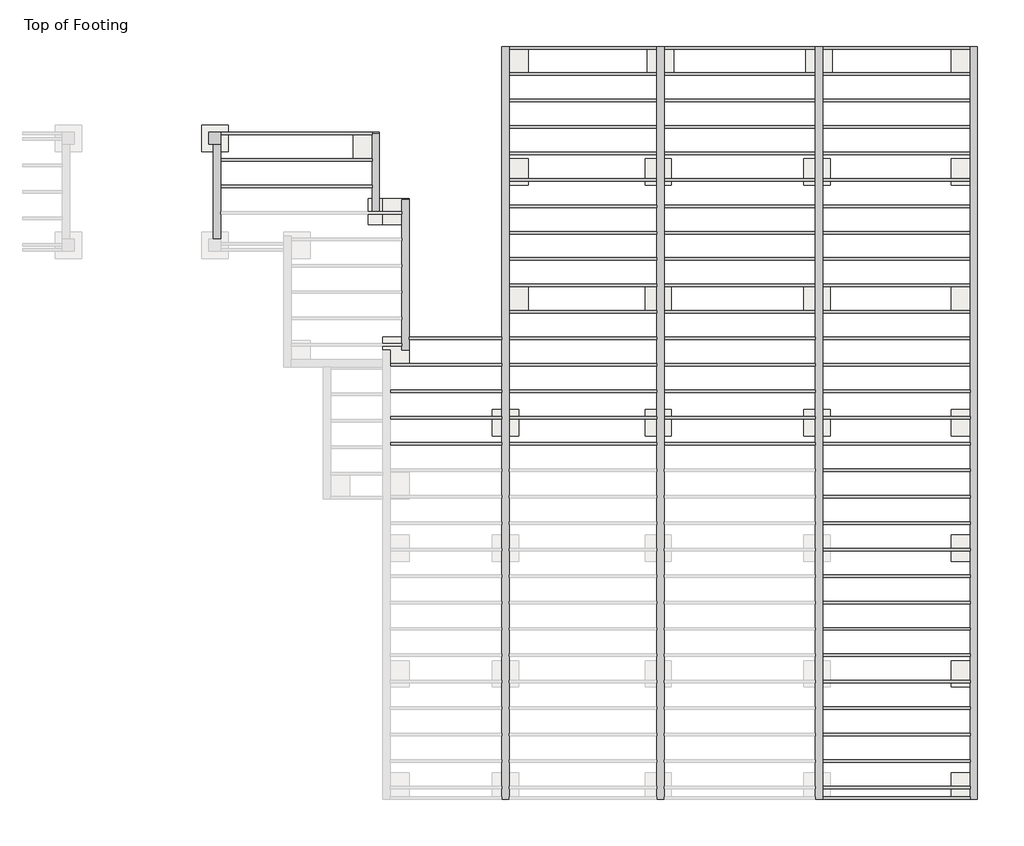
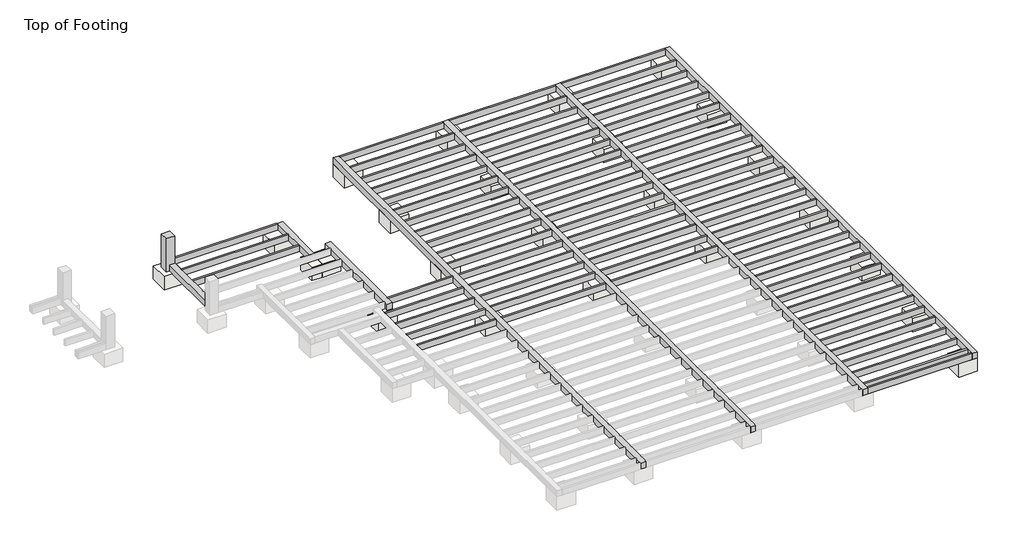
# One storey, part 3 of 3: 77 beams, 24 slabs, 1 column.
"""IFC4 building model written with IfcOpenShell, lengths in millimetres."""

from ifc_helpers import new_model, si_unit, frame, origin, place, context, project, spatial, polyline, outline, extrude, transform, mapped, element, save
from components import dimension_lumber_1_2x_x6_194c576a, dimension_lumber_1_2x_x6_6abd7c7f, dimension_lumber_1_2x_x6_848c9500, dimension_lumber_1_2x_x6_b2661593, dimension_lumber_1_2x_x6_9289383a, dimension_lumber_3_2x_x6_f6200c4b, dimension_lumber_3_2x_x6_4cbae719, dimension_lumber_3_2x_x6_941dd0b6, dimension_lumber_3_2x_x6_e2801ec1, dimension_lumber_column_8x8_2579570d, footing_rectangular_16x16x14_90ff128c

model = new_model("IFC4")

# Units and contexts
model_context = context("Model", 3, world=origin())
ifc_project = project(units=[si_unit("LENGTHUNIT", "METRE", prefix="MILLI")], contexts=[model_context])

# Site, building, storey
site = spatial("IfcSite", under=ifc_project)
building = spatial("IfcBuilding", under=site)
storey = spatial("IfcBuildingStorey", under=building, Name="Top of Footing", Elevation=-158.75)

# Beams
placement = place(None, origin())
dimension_lumber_1_2x_x6_shape = dimension_lumber_1_2x_x6_194c576a(model_context)
element("IfcBeam", 1, ObjectType="Dimension Lumber (1) 2x : x6", at=placement, inside=storey, context=model_context, shape_type="MappedRepresentation", body=[
    mapped(dimension_lumber_1_2x_x6_shape, transform((13753.4788706, -1722.6939898, -88.9), x_axis=(1.0, 0.0, 0.0), y_axis=(0.0, 1.0, 0.0), z_axis=(0.0, 0.0, 1.0))),
])
element("IfcBeam", 2, ObjectType="Dimension Lumber (1) 2x : x6", at=placement, inside=storey, context=model_context, shape_type="MappedRepresentation", body=[
    mapped(dimension_lumber_1_2x_x6_shape, transform((13753.4788706, -2129.0939898, -88.9), x_axis=(1.0, 0.0, 0.0), y_axis=(0.0, 1.0, 0.0), z_axis=(0.0, 0.0, 1.0))),
])
element("IfcBeam", 3, ObjectType="Dimension Lumber (1) 2x : x6", at=placement, inside=storey, context=model_context, shape_type="MappedRepresentation", body=[
    mapped(dimension_lumber_1_2x_x6_shape, transform((13753.4788706, -2535.4939898, -88.9), x_axis=(1.0, 0.0, 0.0), y_axis=(0.0, 1.0, 0.0), z_axis=(0.0, 0.0, 1.0))),
])
element("IfcBeam", 4, ObjectType="Dimension Lumber (1) 2x : x6", at=placement, inside=storey, context=model_context, shape_type="MappedRepresentation", body=[
    mapped(dimension_lumber_1_2x_x6_shape, transform((13753.4788706, -2941.8939898, -88.9), x_axis=(1.0, 0.0, 0.0), y_axis=(0.0, 1.0, 0.0), z_axis=(0.0, 0.0, 1.0))),
])
element("IfcBeam", 5, ObjectType="Dimension Lumber (1) 2x : x6", at=placement, inside=storey, context=model_context, shape_type="MappedRepresentation", body=[
    mapped(dimension_lumber_1_2x_x6_shape, transform((13753.4788706, -3348.2939898, -88.9), x_axis=(1.0, 0.0, 0.0), y_axis=(0.0, 1.0, 0.0), z_axis=(0.0, 0.0, 1.0))),
])
element("IfcBeam", 6, ObjectType="Dimension Lumber (1) 2x : x6", at=placement, inside=storey, context=model_context, shape_type="MappedRepresentation", body=[
    mapped(dimension_lumber_1_2x_x6_shape, transform((13753.4788706, -3754.6939898, -88.9), x_axis=(1.0, 0.0, 0.0), y_axis=(0.0, 1.0, 0.0), z_axis=(0.0, 0.0, 1.0))),
])
element("IfcBeam", 7, ObjectType="Dimension Lumber (1) 2x : x6", at=placement, inside=storey, context=model_context, shape_type="MappedRepresentation", body=[
    mapped(dimension_lumber_1_2x_x6_shape, transform((13753.4788706, -4161.0939898, -88.9), x_axis=(1.0, 0.0, 0.0), y_axis=(0.0, 1.0, 0.0), z_axis=(0.0, 0.0, 1.0))),
])
element("IfcBeam", 8, ObjectType="Dimension Lumber (1) 2x : x6", at=placement, inside=storey, context=model_context, shape_type="MappedRepresentation", body=[
    mapped(dimension_lumber_1_2x_x6_shape, transform((13753.4788706, -4567.4939898, -88.9), x_axis=(1.0, 0.0, 0.0), y_axis=(0.0, 1.0, 0.0), z_axis=(0.0, 0.0, 1.0))),
])
element("IfcBeam", 9, ObjectType="Dimension Lumber (1) 2x : x6", at=placement, inside=storey, context=model_context, shape_type="MappedRepresentation", body=[
    mapped(dimension_lumber_1_2x_x6_shape, transform((13753.4788706, -4973.8939898, -88.9), x_axis=(1.0, 0.0, 0.0), y_axis=(0.0, 1.0, 0.0), z_axis=(0.0, 0.0, 1.0))),
])
element("IfcBeam", 10, ObjectType="Dimension Lumber (1) 2x : x6", at=placement, inside=storey, context=model_context, shape_type="MappedRepresentation", body=[
    mapped(dimension_lumber_1_2x_x6_shape, transform((13753.4788706, -5380.2939898, -88.9), x_axis=(1.0, 0.0, 0.0), y_axis=(0.0, 1.0, 0.0), z_axis=(0.0, 0.0, 1.0))),
])
element("IfcBeam", 11, ObjectType="Dimension Lumber (1) 2x : x6", at=placement, inside=storey, context=model_context, shape_type="MappedRepresentation", body=[
    mapped(dimension_lumber_1_2x_x6_shape, transform((13753.4788706, -5786.6939898, -88.9), x_axis=(1.0, 0.0, 0.0), y_axis=(0.0, 1.0, 0.0), z_axis=(0.0, 0.0, 1.0))),
])
element("IfcBeam", 12, ObjectType="Dimension Lumber (1) 2x : x6", at=placement, inside=storey, context=model_context, shape_type="MappedRepresentation", body=[
    mapped(dimension_lumber_1_2x_x6_shape, transform((13753.4788706, -6193.0939898, -88.9), x_axis=(1.0, 0.0, 0.0), y_axis=(0.0, 1.0, 0.0), z_axis=(0.0, 0.0, 1.0))),
])
element("IfcBeam", 13, ObjectType="Dimension Lumber (1) 2x : x6", at=placement, inside=storey, context=model_context, shape_type="MappedRepresentation", body=[
    mapped(dimension_lumber_1_2x_x6_shape, transform((13753.4788706, -6599.4939898, -88.9), x_axis=(1.0, 0.0, 0.0), y_axis=(0.0, 1.0, 0.0), z_axis=(0.0, 0.0, 1.0))),
])
element("IfcBeam", 14, ObjectType="Dimension Lumber (1) 2x : x6", at=placement, inside=storey, context=model_context, shape_type="MappedRepresentation", body=[
    mapped(dimension_lumber_1_2x_x6_shape, transform((13753.4788706, -7005.8939898, -88.9), x_axis=(1.0, 0.0, 0.0), y_axis=(0.0, 1.0, 0.0), z_axis=(0.0, 0.0, 1.0))),
])
element("IfcBeam", 15, ObjectType="Dimension Lumber (1) 2x : x6", at=placement, inside=storey, context=model_context, shape_type="MappedRepresentation", body=[
    mapped(dimension_lumber_1_2x_x6_shape, transform((13753.4788706, -7412.2939898, -88.9), x_axis=(1.0, 0.0, 0.0), y_axis=(0.0, 1.0, 0.0), z_axis=(0.0, 0.0, 1.0))),
])
element("IfcBeam", 16, ObjectType="Dimension Lumber (1) 2x : x6", at=placement, inside=storey, context=model_context, shape_type="MappedRepresentation", body=[
    mapped(dimension_lumber_1_2x_x6_shape, transform((13753.4788706, -7818.6939898, -88.9), x_axis=(1.0, 0.0, 0.0), y_axis=(0.0, 1.0, 0.0), z_axis=(0.0, 0.0, 1.0))),
])
element("IfcBeam", 17, ObjectType="Dimension Lumber (1) 2x : x6", at=placement, inside=storey, context=model_context, shape_type="MappedRepresentation", body=[
    mapped(dimension_lumber_1_2x_x6_shape, transform((6939.9288706, -3449.8939898, -88.9), x_axis=(1.0, 0.0, 0.0), y_axis=(0.0, 1.0, 0.0), z_axis=(0.0, 0.0, 1.0))),
])
element("IfcBeam", 18, ObjectType="Dimension Lumber (1) 2x : x6", at=placement, inside=storey, context=model_context, shape_type="MappedRepresentation", body=[
    mapped(dimension_lumber_1_2x_x6_shape, transform((6939.9288706, -3856.2939898, -88.9), x_axis=(1.0, 0.0, 0.0), y_axis=(0.0, 1.0, 0.0), z_axis=(0.0, 0.0, 1.0))),
])
dimension_lumber_1_2x_x6_2_shape = dimension_lumber_1_2x_x6_6abd7c7f(model_context)
element("IfcBeam", 19, ObjectType="Dimension Lumber (1) 2x : x6", at=placement, inside=storey, context=model_context, shape_type="MappedRepresentation", body=[
    mapped(dimension_lumber_1_2x_x6_2_shape, transform((9384.6788706, -6193.0939898, -88.9), x_axis=(-1.0, 0.0, 0.0), y_axis=(0.0, -1.0, 0.0), z_axis=(0.0, 0.0, 1.0))),
])
dimension_lumber_1_2x_x6_3_shape = dimension_lumber_1_2x_x6_848c9500(model_context)
element("IfcBeam", 20, ObjectType="Dimension Lumber (1) 2x : x6", at=placement, inside=storey, context=model_context, shape_type="MappedRepresentation", body=[
    mapped(dimension_lumber_1_2x_x6_3_shape, transform((9238.6288706, -7818.6939898, -88.9), x_axis=(-1.0, 0.0, 0.0), y_axis=(0.0, -1.0, 0.0), z_axis=(0.0, 0.0, 1.0))),
])
element("IfcBeam", 21, ObjectType="Dimension Lumber (1) 2x : x6", at=placement, inside=storey, context=model_context, shape_type="MappedRepresentation", body=[
    mapped(dimension_lumber_1_2x_x6_3_shape, transform((9238.6288706, -7412.2939898, -88.9), x_axis=(-1.0, 0.0, 0.0), y_axis=(0.0, -1.0, 0.0), z_axis=(0.0, 0.0, 1.0))),
])
element("IfcBeam", 22, ObjectType="Dimension Lumber (1) 2x : x6", at=placement, inside=storey, context=model_context, shape_type="MappedRepresentation", body=[
    mapped(dimension_lumber_1_2x_x6_3_shape, transform((9238.6288706, -7005.8939898, -88.9), x_axis=(-1.0, 0.0, 0.0), y_axis=(0.0, -1.0, 0.0), z_axis=(0.0, 0.0, 1.0))),
])
element("IfcBeam", 23, ObjectType="Dimension Lumber (1) 2x : x6", at=placement, inside=storey, context=model_context, shape_type="MappedRepresentation", body=[
    mapped(dimension_lumber_1_2x_x6_3_shape, transform((9238.6288706, -6599.4939898, -88.9), x_axis=(-1.0, 0.0, 0.0), y_axis=(0.0, -1.0, 0.0), z_axis=(0.0, 0.0, 1.0))),
])
dimension_lumber_1_2x_x6_4_shape = dimension_lumber_1_2x_x6_b2661593(model_context)
element("IfcBeam", 24, ObjectType="Dimension Lumber (1) 2x : x6", at=placement, inside=storey, context=model_context, shape_type="MappedRepresentation", body=[
    mapped(dimension_lumber_1_2x_x6_4_shape, transform((6968.5038706, -3043.4939898, -88.9), x_axis=(1.0, 0.0, 0.0), y_axis=(0.0, 1.0, 0.0), z_axis=(0.0, 0.0, 1.0))),
])
dimension_lumber_1_2x_x6_5_shape = dimension_lumber_1_2x_x6_9289383a(model_context)
element("IfcBeam", 25, ObjectType="Dimension Lumber (1) 2x : x6", at=placement, inside=storey, context=model_context, shape_type="MappedRepresentation", body=[
    mapped(dimension_lumber_1_2x_x6_5_shape, transform((11343.6538706, -1722.6939898, -88.9), x_axis=(1.0, 0.0, 0.0), y_axis=(0.0, 1.0, 0.0), z_axis=(0.0, 0.0, 1.0))),
])
element("IfcBeam", 26, ObjectType="Dimension Lumber (1) 2x : x6", at=placement, inside=storey, context=model_context, shape_type="MappedRepresentation", body=[
    mapped(dimension_lumber_1_2x_x6_5_shape, transform((11343.6538706, -2129.0939898, -88.9), x_axis=(1.0, 0.0, 0.0), y_axis=(0.0, 1.0, 0.0), z_axis=(0.0, 0.0, 1.0))),
])
element("IfcBeam", 27, ObjectType="Dimension Lumber (1) 2x : x6", at=placement, inside=storey, context=model_context, shape_type="MappedRepresentation", body=[
    mapped(dimension_lumber_1_2x_x6_5_shape, transform((11343.6538706, -2535.4939898, -88.9), x_axis=(1.0, 0.0, 0.0), y_axis=(0.0, 1.0, 0.0), z_axis=(0.0, 0.0, 1.0))),
])
element("IfcBeam", 28, ObjectType="Dimension Lumber (1) 2x : x6", at=placement, inside=storey, context=model_context, shape_type="MappedRepresentation", body=[
    mapped(dimension_lumber_1_2x_x6_5_shape, transform((11343.6538706, -2941.8939898, -88.9), x_axis=(1.0, 0.0, 0.0), y_axis=(0.0, 1.0, 0.0), z_axis=(0.0, 0.0, 1.0))),
])
element("IfcBeam", 29, ObjectType="Dimension Lumber (1) 2x : x6", at=placement, inside=storey, context=model_context, shape_type="MappedRepresentation", body=[
    mapped(dimension_lumber_1_2x_x6_5_shape, transform((11343.6538706, -3348.2939898, -88.9), x_axis=(1.0, 0.0, 0.0), y_axis=(0.0, 1.0, 0.0), z_axis=(0.0, 0.0, 1.0))),
])
element("IfcBeam", 30, ObjectType="Dimension Lumber (1) 2x : x6", at=placement, inside=storey, context=model_context, shape_type="MappedRepresentation", body=[
    mapped(dimension_lumber_1_2x_x6_5_shape, transform((11343.6538706, -3754.6939898, -88.9), x_axis=(1.0, 0.0, 0.0), y_axis=(0.0, 1.0, 0.0), z_axis=(0.0, 0.0, 1.0))),
])
element("IfcBeam", 31, ObjectType="Dimension Lumber (1) 2x : x6", at=placement, inside=storey, context=model_context, shape_type="MappedRepresentation", body=[
    mapped(dimension_lumber_1_2x_x6_5_shape, transform((11343.6538706, -4161.0939898, -88.9), x_axis=(1.0, 0.0, 0.0), y_axis=(0.0, 1.0, 0.0), z_axis=(0.0, 0.0, 1.0))),
])
element("IfcBeam", 32, ObjectType="Dimension Lumber (1) 2x : x6", at=placement, inside=storey, context=model_context, shape_type="MappedRepresentation", body=[
    mapped(dimension_lumber_1_2x_x6_5_shape, transform((11343.6538706, -4567.4939898, -88.9), x_axis=(1.0, 0.0, 0.0), y_axis=(0.0, 1.0, 0.0), z_axis=(0.0, 0.0, 1.0))),
])
element("IfcBeam", 33, ObjectType="Dimension Lumber (1) 2x : x6", at=placement, inside=storey, context=model_context, shape_type="MappedRepresentation", body=[
    mapped(dimension_lumber_1_2x_x6_5_shape, transform((11343.6538706, -4973.8939898, -88.9), x_axis=(1.0, 0.0, 0.0), y_axis=(0.0, 1.0, 0.0), z_axis=(0.0, 0.0, 1.0))),
])
element("IfcBeam", 34, ObjectType="Dimension Lumber (1) 2x : x6", at=placement, inside=storey, context=model_context, shape_type="MappedRepresentation", body=[
    mapped(dimension_lumber_1_2x_x6_5_shape, transform((11343.6538706, -5380.2939898, -88.9), x_axis=(1.0, 0.0, 0.0), y_axis=(0.0, 1.0, 0.0), z_axis=(0.0, 0.0, 1.0))),
])
element("IfcBeam", 35, ObjectType="Dimension Lumber (1) 2x : x6", at=placement, inside=storey, context=model_context, shape_type="MappedRepresentation", body=[
    mapped(dimension_lumber_1_2x_x6_5_shape, transform((11343.6538706, -5786.6939898, -88.9), x_axis=(1.0, 0.0, 0.0), y_axis=(0.0, 1.0, 0.0), z_axis=(0.0, 0.0, 1.0))),
])
element("IfcBeam", 36, ObjectType="Dimension Lumber (1) 2x : x6", at=placement, inside=storey, context=model_context, shape_type="MappedRepresentation", body=[
    mapped(dimension_lumber_1_2x_x6_5_shape, transform((11343.6538706, -6193.0939898, -88.9), x_axis=(1.0, 0.0, 0.0), y_axis=(0.0, 1.0, 0.0), z_axis=(0.0, 0.0, 1.0))),
])
element("IfcBeam", 37, ObjectType="Dimension Lumber (1) 2x : x6", at=placement, inside=storey, context=model_context, shape_type="MappedRepresentation", body=[
    mapped(dimension_lumber_1_2x_x6_5_shape, transform((11343.6538706, -6599.4939898, -88.9), x_axis=(1.0, 0.0, 0.0), y_axis=(0.0, 1.0, 0.0), z_axis=(0.0, 0.0, 1.0))),
])
element("IfcBeam", 38, ObjectType="Dimension Lumber (1) 2x : x6", at=placement, inside=storey, context=model_context, shape_type="MappedRepresentation", body=[
    mapped(dimension_lumber_1_2x_x6_5_shape, transform((11343.6538706, -7005.8939898, -88.9), x_axis=(1.0, 0.0, 0.0), y_axis=(0.0, 1.0, 0.0), z_axis=(0.0, 0.0, 1.0))),
])
element("IfcBeam", 39, ObjectType="Dimension Lumber (1) 2x : x6", at=placement, inside=storey, context=model_context, shape_type="MappedRepresentation", body=[
    mapped(dimension_lumber_1_2x_x6_5_shape, transform((11343.6538706, -7412.2939898, -88.9), x_axis=(1.0, 0.0, 0.0), y_axis=(0.0, 1.0, 0.0), z_axis=(0.0, 0.0, 1.0))),
])
element("IfcBeam", 40, ObjectType="Dimension Lumber (1) 2x : x6", at=placement, inside=storey, context=model_context, shape_type="MappedRepresentation", body=[
    mapped(dimension_lumber_1_2x_x6_5_shape, transform((11343.6538706, -7818.6939898, -88.9), x_axis=(1.0, 0.0, 0.0), y_axis=(0.0, 1.0, 0.0), z_axis=(0.0, 0.0, 1.0))),
])
element("IfcBeam", 41, ObjectType="Dimension Lumber (1) 2x : x6", at=placement, inside=storey, context=model_context, shape_type="MappedRepresentation", body=[
    mapped(dimension_lumber_1_2x_x6_5_shape, transform((16163.3038706, -1722.6939898, -88.9), x_axis=(1.0, 0.0, 0.0), y_axis=(0.0, 1.0, 0.0), z_axis=(0.0, 0.0, 1.0))),
])
element("IfcBeam", 42, ObjectType="Dimension Lumber (1) 2x : x6", at=placement, inside=storey, context=model_context, shape_type="MappedRepresentation", body=[
    mapped(dimension_lumber_1_2x_x6_5_shape, transform((16163.3038706, -2129.0939898, -88.9), x_axis=(1.0, 0.0, 0.0), y_axis=(0.0, 1.0, 0.0), z_axis=(0.0, 0.0, 1.0))),
])
element("IfcBeam", 43, ObjectType="Dimension Lumber (1) 2x : x6", at=placement, inside=storey, context=model_context, shape_type="MappedRepresentation", body=[
    mapped(dimension_lumber_1_2x_x6_5_shape, transform((16163.3038706, -2535.4939898, -88.9), x_axis=(1.0, 0.0, 0.0), y_axis=(0.0, 1.0, 0.0), z_axis=(0.0, 0.0, 1.0))),
])
element("IfcBeam", 44, ObjectType="Dimension Lumber (1) 2x : x6", at=placement, inside=storey, context=model_context, shape_type="MappedRepresentation", body=[
    mapped(dimension_lumber_1_2x_x6_5_shape, transform((16163.3038706, -2941.8939898, -88.9), x_axis=(1.0, 0.0, 0.0), y_axis=(0.0, 1.0, 0.0), z_axis=(0.0, 0.0, 1.0))),
])
element("IfcBeam", 45, ObjectType="Dimension Lumber (1) 2x : x6", at=placement, inside=storey, context=model_context, shape_type="MappedRepresentation", body=[
    mapped(dimension_lumber_1_2x_x6_5_shape, transform((16163.3038706, -3348.2939898, -88.9), x_axis=(1.0, 0.0, 0.0), y_axis=(0.0, 1.0, 0.0), z_axis=(0.0, 0.0, 1.0))),
])
element("IfcBeam", 46, ObjectType="Dimension Lumber (1) 2x : x6", at=placement, inside=storey, context=model_context, shape_type="MappedRepresentation", body=[
    mapped(dimension_lumber_1_2x_x6_5_shape, transform((16163.3038706, -3754.6939898, -88.9), x_axis=(1.0, 0.0, 0.0), y_axis=(0.0, 1.0, 0.0), z_axis=(0.0, 0.0, 1.0))),
])
element("IfcBeam", 47, ObjectType="Dimension Lumber (1) 2x : x6", at=placement, inside=storey, context=model_context, shape_type="MappedRepresentation", body=[
    mapped(dimension_lumber_1_2x_x6_5_shape, transform((16163.3038706, -4161.0939898, -88.9), x_axis=(1.0, 0.0, 0.0), y_axis=(0.0, 1.0, 0.0), z_axis=(0.0, 0.0, 1.0))),
])
element("IfcBeam", 48, ObjectType="Dimension Lumber (1) 2x : x6", at=placement, inside=storey, context=model_context, shape_type="MappedRepresentation", body=[
    mapped(dimension_lumber_1_2x_x6_5_shape, transform((16163.3038706, -4567.4939898, -88.9), x_axis=(1.0, 0.0, 0.0), y_axis=(0.0, 1.0, 0.0), z_axis=(0.0, 0.0, 1.0))),
])
element("IfcBeam", 49, ObjectType="Dimension Lumber (1) 2x : x6", at=placement, inside=storey, context=model_context, shape_type="MappedRepresentation", body=[
    mapped(dimension_lumber_1_2x_x6_5_shape, transform((16163.3038706, -4973.8939898, -88.9), x_axis=(1.0, 0.0, 0.0), y_axis=(0.0, 1.0, 0.0), z_axis=(0.0, 0.0, 1.0))),
])
element("IfcBeam", 50, ObjectType="Dimension Lumber (1) 2x : x6", at=placement, inside=storey, context=model_context, shape_type="MappedRepresentation", body=[
    mapped(dimension_lumber_1_2x_x6_5_shape, transform((16163.3038706, -5380.2939898, -88.9), x_axis=(1.0, 0.0, 0.0), y_axis=(0.0, 1.0, 0.0), z_axis=(0.0, 0.0, 1.0))),
])
element("IfcBeam", 51, ObjectType="Dimension Lumber (1) 2x : x6", at=placement, inside=storey, context=model_context, shape_type="MappedRepresentation", body=[
    mapped(dimension_lumber_1_2x_x6_5_shape, transform((16163.3038706, -5786.6939898, -88.9), x_axis=(1.0, 0.0, 0.0), y_axis=(0.0, 1.0, 0.0), z_axis=(0.0, 0.0, 1.0))),
])
element("IfcBeam", 52, ObjectType="Dimension Lumber (1) 2x : x6", at=placement, inside=storey, context=model_context, shape_type="MappedRepresentation", body=[
    mapped(dimension_lumber_1_2x_x6_5_shape, transform((16163.3038706, -6193.0939898, -88.9), x_axis=(1.0, 0.0, 0.0), y_axis=(0.0, 1.0, 0.0), z_axis=(0.0, 0.0, 1.0))),
])
element("IfcBeam", 53, ObjectType="Dimension Lumber (1) 2x : x6", at=placement, inside=storey, context=model_context, shape_type="MappedRepresentation", body=[
    mapped(dimension_lumber_1_2x_x6_5_shape, transform((16163.3038706, -6599.4939898, -88.9), x_axis=(1.0, 0.0, 0.0), y_axis=(0.0, 1.0, 0.0), z_axis=(0.0, 0.0, 1.0))),
])
element("IfcBeam", 54, ObjectType="Dimension Lumber (1) 2x : x6", at=placement, inside=storey, context=model_context, shape_type="MappedRepresentation", body=[
    mapped(dimension_lumber_1_2x_x6_5_shape, transform((16163.3038706, -7005.8939898, -88.9), x_axis=(1.0, 0.0, 0.0), y_axis=(0.0, 1.0, 0.0), z_axis=(0.0, 0.0, 1.0))),
])
element("IfcBeam", 55, ObjectType="Dimension Lumber (1) 2x : x6", at=placement, inside=storey, context=model_context, shape_type="MappedRepresentation", body=[
    mapped(dimension_lumber_1_2x_x6_5_shape, transform((16163.3038706, -7412.2939898, -88.9), x_axis=(1.0, 0.0, 0.0), y_axis=(0.0, 1.0, 0.0), z_axis=(0.0, 0.0, 1.0))),
])
element("IfcBeam", 56, ObjectType="Dimension Lumber (1) 2x : x6", at=placement, inside=storey, context=model_context, shape_type="MappedRepresentation", body=[
    mapped(dimension_lumber_1_2x_x6_5_shape, transform((16163.3038706, -7818.6939898, -88.9), x_axis=(1.0, 0.0, 0.0), y_axis=(0.0, 1.0, 0.0), z_axis=(0.0, 0.0, 1.0))),
])
element("IfcBeam", 57, ObjectType="Dimension Lumber (1) 2x : x6", at=placement, inside=storey, context=model_context, shape_type="MappedRepresentation", body=[
    mapped(dimension_lumber_1_2x_x6_5_shape, transform((16163.3038706, -8225.0939898, -88.9), x_axis=(1.0, 0.0, 0.0), y_axis=(0.0, 1.0, 0.0), z_axis=(0.0, 0.0, 1.0))),
])
element("IfcBeam", 58, ObjectType="Dimension Lumber (1) 2x : x6", at=placement, inside=storey, context=model_context, shape_type="MappedRepresentation", body=[
    mapped(dimension_lumber_1_2x_x6_5_shape, transform((16163.3038706, -8631.4939898, -88.9), x_axis=(1.0, 0.0, 0.0), y_axis=(0.0, 1.0, 0.0), z_axis=(0.0, 0.0, 1.0))),
])
element("IfcBeam", 59, ObjectType="Dimension Lumber (1) 2x : x6", at=placement, inside=storey, context=model_context, shape_type="MappedRepresentation", body=[
    mapped(dimension_lumber_1_2x_x6_5_shape, transform((16163.3038706, -9037.8939898, -88.9), x_axis=(1.0, 0.0, 0.0), y_axis=(0.0, 1.0, 0.0), z_axis=(0.0, 0.0, 1.0))),
])
element("IfcBeam", 60, ObjectType="Dimension Lumber (1) 2x : x6", at=placement, inside=storey, context=model_context, shape_type="MappedRepresentation", body=[
    mapped(dimension_lumber_1_2x_x6_5_shape, transform((16163.3038706, -9444.2939898, -88.9), x_axis=(1.0, 0.0, 0.0), y_axis=(0.0, 1.0, 0.0), z_axis=(0.0, 0.0, 1.0))),
])
element("IfcBeam", 61, ObjectType="Dimension Lumber (1) 2x : x6", at=placement, inside=storey, context=model_context, shape_type="MappedRepresentation", body=[
    mapped(dimension_lumber_1_2x_x6_5_shape, transform((16163.3038706, -9850.6939898, -88.9), x_axis=(1.0, 0.0, 0.0), y_axis=(0.0, 1.0, 0.0), z_axis=(0.0, 0.0, 1.0))),
])
element("IfcBeam", 62, ObjectType="Dimension Lumber (1) 2x : x6", at=placement, inside=storey, context=model_context, shape_type="MappedRepresentation", body=[
    mapped(dimension_lumber_1_2x_x6_5_shape, transform((16163.3038706, -10257.0939898, -88.9), x_axis=(1.0, 0.0, 0.0), y_axis=(0.0, 1.0, 0.0), z_axis=(0.0, 0.0, 1.0))),
])
element("IfcBeam", 63, ObjectType="Dimension Lumber (1) 2x : x6", at=placement, inside=storey, context=model_context, shape_type="MappedRepresentation", body=[
    mapped(dimension_lumber_1_2x_x6_5_shape, transform((16163.3038706, -10663.4939898, -88.9), x_axis=(1.0, 0.0, 0.0), y_axis=(0.0, 1.0, 0.0), z_axis=(0.0, 0.0, 1.0))),
])
element("IfcBeam", 64, ObjectType="Dimension Lumber (1) 2x : x6", at=placement, inside=storey, context=model_context, shape_type="MappedRepresentation", body=[
    mapped(dimension_lumber_1_2x_x6_5_shape, transform((16163.3038706, -11069.8939898, -88.9), x_axis=(1.0, 0.0, 0.0), y_axis=(0.0, 1.0, 0.0), z_axis=(0.0, 0.0, 1.0))),
])
element("IfcBeam", 65, ObjectType="Dimension Lumber (1) 2x : x6", at=placement, inside=storey, context=model_context, shape_type="MappedRepresentation", body=[
    mapped(dimension_lumber_1_2x_x6_5_shape, transform((16163.3038706, -11476.2939898, -88.9), x_axis=(1.0, 0.0, 0.0), y_axis=(0.0, 1.0, 0.0), z_axis=(0.0, 0.0, 1.0))),
])
element("IfcBeam", 66, ObjectType="Dimension Lumber (1) 2x : x6", at=placement, inside=storey, context=model_context, shape_type="MappedRepresentation", body=[
    mapped(dimension_lumber_1_2x_x6_5_shape, transform((16163.3038706, -11882.6939898, -88.9), x_axis=(1.0, 0.0, 0.0), y_axis=(0.0, 1.0, 0.0), z_axis=(0.0, 0.0, 1.0))),
])
element("IfcBeam", 67, ObjectType="Dimension Lumber (1) 2x : x6", at=placement, inside=storey, context=model_context, shape_type="MappedRepresentation", body=[
    mapped(dimension_lumber_1_2x_x6_5_shape, transform((16163.3038706, -12289.0939898, -88.9), x_axis=(1.0, 0.0, 0.0), y_axis=(0.0, 1.0, 0.0), z_axis=(0.0, 0.0, 1.0))),
])
element("IfcBeam", 68, ObjectType="Dimension Lumber (1) 2x : x6", at=placement, inside=storey, context=model_context, shape_type="MappedRepresentation", body=[
    mapped(dimension_lumber_1_2x_x6_5_shape, transform((16163.3038706, -12695.4939898, -88.9), x_axis=(1.0, 0.0, 0.0), y_axis=(0.0, 1.0, 0.0), z_axis=(0.0, 0.0, 1.0))),
])
element("IfcBeam", 69, ObjectType="Dimension Lumber (1) 2x : x6", at=placement, inside=storey, context=model_context, shape_type="MappedRepresentation", body=[
    mapped(dimension_lumber_1_2x_x6_5_shape, transform((16163.3038706, -13101.8939898, -88.9), x_axis=(1.0, 0.0, 0.0), y_axis=(0.0, 1.0, 0.0), z_axis=(0.0, 0.0, 1.0))),
])
element("IfcBeam", 70, ObjectType="Dimension Lumber (1) 2x : x6", at=placement, inside=storey, context=model_context, shape_type="MappedRepresentation", body=[
    mapped(dimension_lumber_1_2x_x6_5_shape, transform((16163.3038706, -13266.9939898, -88.9), x_axis=(1.0, 0.0, 0.0), y_axis=(0.0, 1.0, 0.0), z_axis=(0.0, 0.0, 1.0))),
])
dimension_lumber_3_2x_x6_shape = dimension_lumber_3_2x_x6_f6200c4b(model_context)
element("IfcBeam", 71, ObjectType="Dimension Lumber (3) 2x : x6", at=placement, inside=storey, context=model_context, shape_type="MappedRepresentation", body=[
    mapped(dimension_lumber_3_2x_x6_shape, transform((5720.7288706, -3919.7939898, -88.9), x_axis=(0.0, 1.0, 0.0), y_axis=(-1.0, 0.0, 0.0), z_axis=(0.0, 0.0, 1.0))),
])
dimension_lumber_3_2x_x6_2_shape = dimension_lumber_3_2x_x6_4cbae719(model_context)
element("IfcBeam", 72, ObjectType="Dimension Lumber (3) 2x : x6", at=placement, inside=storey, context=model_context, shape_type="MappedRepresentation", body=[
    mapped(dimension_lumber_3_2x_x6_2_shape, transform((8616.3288706, -5223.2203898, -88.9), x_axis=(0.0, -1.0, 0.0), y_axis=(1.0, 0.0, 0.0), z_axis=(0.0, 0.0, 1.0))),
])
dimension_lumber_3_2x_x6_3_shape = dimension_lumber_3_2x_x6_941dd0b6(model_context)
element("IfcBeam", 73, ObjectType="Dimension Lumber (3) 2x : x6", at=placement, inside=storey, context=model_context, shape_type="MappedRepresentation", body=[
    mapped(dimension_lumber_3_2x_x6_3_shape, transform((12534.2788706, -7485.3189898, -88.9), x_axis=(0.0, -1.0, 0.0), y_axis=(1.0, 0.0, 0.0), z_axis=(0.0, 0.0, 1.0))),
])
element("IfcBeam", 74, ObjectType="Dimension Lumber (3) 2x : x6", at=placement, inside=storey, context=model_context, shape_type="MappedRepresentation", body=[
    mapped(dimension_lumber_3_2x_x6_3_shape, transform((14972.6788706, -7485.3189898, -88.9), x_axis=(0.0, -1.0, 0.0), y_axis=(1.0, 0.0, 0.0), z_axis=(0.0, 0.0, 1.0))),
])
element("IfcBeam", 75, ObjectType="Dimension Lumber (3) 2x : x6", at=placement, inside=storey, context=model_context, shape_type="MappedRepresentation", body=[
    mapped(dimension_lumber_3_2x_x6_3_shape, transform((17353.9288706, -7485.3189898, -88.9), x_axis=(0.0, -1.0, 0.0), y_axis=(1.0, 0.0, 0.0), z_axis=(0.0, 0.0, 1.0))),
])
element("IfcBeam", 76, ObjectType="Dimension Lumber (3) 2x : x6", at=placement, inside=storey, context=model_context, shape_type="MappedRepresentation", body=[
    mapped(dimension_lumber_3_2x_x6_3_shape, transform((10153.0288706, -7485.3189898, -88.9), x_axis=(0.0, -1.0, 0.0), y_axis=(1.0, 0.0, 0.0), z_axis=(0.0, 0.0, 1.0))),
])
dimension_lumber_3_2x_x6_4_shape = dimension_lumber_3_2x_x6_e2801ec1(model_context)
element("IfcBeam", 77, ObjectType="Dimension Lumber (3) 2x : x6", at=placement, inside=storey, context=model_context, shape_type="MappedRepresentation", body=[
    mapped(dimension_lumber_3_2x_x6_4_shape, transform((8159.1288706, -3653.0939898, -88.9), x_axis=(0.0, -1.0, 0.0), y_axis=(1.0, 0.0, 0.0), z_axis=(0.0, 0.0, 1.0))),
])

# Column
dimension_lumber_column_8x8_shape = dimension_lumber_column_8x8_2579570d(model_context)
element("IfcColumn", 78, ObjectType="Dimension Lumber-Column : 8x8", at=placement, inside=storey, context=model_context, shape_type="MappedRepresentation", body=[
    mapped(dimension_lumber_column_8x8_shape, transform((5685.8038706, -3116.5189898, 0.0), x_axis=(1.0, 0.0, 0.0), y_axis=(0.0, 1.0, 0.0), z_axis=(0.0, 0.0, 1.0))),
])

# Slabs
element("IfcSlab", 79, ObjectType="Footing-Rectangular : 16x16x14", at=placement, inside=storey, context=model_context, shape_type="SweptSolid", body=[
    extrude(outline(polyline([(8673.4788706, -4040.4439898), (8673.4788706, -4446.8439898), (8267.0788706, -4446.8439898), (8267.0788706, -4040.4439898), (8673.4788706, -4040.4439898)])), frame((0.0, 0.0, -463.55), z_axis=(0.0, 0.0, 1.0), x_axis=(1.0, 0.0, 0.0)), (0.0, 0.0, 1.0), 304.8),
])
element("IfcSlab", 80, ObjectType="Footing-Rectangular : 16x16x14", at=placement, inside=storey, context=model_context, shape_type="SweptSolid", body=[
    extrude(outline(polyline([(8040.2596831, -4446.8439898), (8040.2596831, -4040.4439898), (8267.0788706, -4040.4439898), (8267.0788706, -4446.8439898), (8040.2596831, -4446.8439898)])), frame((0.0, 0.0, -463.55), z_axis=(0.0, 0.0, 1.0), x_axis=(1.0, 0.0, 0.0)), (0.0, 0.0, 1.0), 304.8),
])
footing_rectangular_16x16x14_shape = footing_rectangular_16x16x14_90ff128c(model_context)
element("IfcSlab", 81, ObjectType="Footing-Rectangular : 16x16x14", at=placement, inside=storey, context=model_context, shape_type="MappedRepresentation", body=[
    mapped(footing_rectangular_16x16x14_shape, transform((10299.0788706, -1906.8439898, -158.75), x_axis=(1.0, 0.0, 0.0), y_axis=(0.0, 1.0, 0.0), z_axis=(0.0, 0.0, 1.0))),
])
element("IfcSlab", 82, ObjectType="Footing-Rectangular : 16x16x14", at=placement, inside=storey, context=model_context, shape_type="MappedRepresentation", body=[
    mapped(footing_rectangular_16x16x14_shape, transform((12534.2788706, -1906.8439898, -158.75), x_axis=(1.0, 0.0, 0.0), y_axis=(0.0, 1.0, 0.0), z_axis=(0.0, 0.0, 1.0))),
])
element("IfcSlab", 83, ObjectType="Footing-Rectangular : 16x16x14", at=placement, inside=storey, context=model_context, shape_type="MappedRepresentation", body=[
    mapped(footing_rectangular_16x16x14_shape, transform((14972.6788706, -1906.8439898, -158.75), x_axis=(1.0, 0.0, 0.0), y_axis=(0.0, 1.0, 0.0), z_axis=(0.0, 0.0, 1.0))),
])
element("IfcSlab", 84, ObjectType="Footing-Rectangular : 16x16x14", at=placement, inside=storey, context=model_context, shape_type="MappedRepresentation", body=[
    mapped(footing_rectangular_16x16x14_shape, transform((17207.8788706, -1906.8439898, -158.75), x_axis=(1.0, 0.0, 0.0), y_axis=(0.0, 1.0, 0.0), z_axis=(0.0, 0.0, 1.0))),
])
element("IfcSlab", 85, ObjectType="Footing-Rectangular : 16x16x14", at=placement, inside=storey, context=model_context, shape_type="MappedRepresentation", body=[
    mapped(footing_rectangular_16x16x14_shape, transform((10299.0788706, -3634.0439898, -158.75), x_axis=(1.0, 0.0, 0.0), y_axis=(0.0, 1.0, 0.0), z_axis=(0.0, 0.0, 1.0))),
])
element("IfcSlab", 86, ObjectType="Footing-Rectangular : 16x16x14", at=placement, inside=storey, context=model_context, shape_type="MappedRepresentation", body=[
    mapped(footing_rectangular_16x16x14_shape, transform((12502.5288706, -3634.0439898, -158.75), x_axis=(1.0, 0.0, 0.0), y_axis=(0.0, 1.0, 0.0), z_axis=(0.0, 0.0, 1.0))),
])
element("IfcSlab", 87, ObjectType="Footing-Rectangular : 16x16x14", at=placement, inside=storey, context=model_context, shape_type="MappedRepresentation", body=[
    mapped(footing_rectangular_16x16x14_shape, transform((14940.9288706, -3634.0439898, -158.75), x_axis=(1.0, 0.0, 0.0), y_axis=(0.0, 1.0, 0.0), z_axis=(0.0, 0.0, 1.0))),
])
element("IfcSlab", 88, ObjectType="Footing-Rectangular : 16x16x14", at=placement, inside=storey, context=model_context, shape_type="MappedRepresentation", body=[
    mapped(footing_rectangular_16x16x14_shape, transform((17207.8788706, -3634.0439898, -158.75), x_axis=(1.0, 0.0, 0.0), y_axis=(0.0, 1.0, 0.0), z_axis=(0.0, 0.0, 1.0))),
])
element("IfcSlab", 89, ObjectType="Footing-Rectangular : 16x16x14", at=placement, inside=storey, context=model_context, shape_type="MappedRepresentation", body=[
    mapped(footing_rectangular_16x16x14_shape, transform((10299.0788706, -5564.4439898, -158.75), x_axis=(1.0, 0.0, 0.0), y_axis=(0.0, 1.0, 0.0), z_axis=(0.0, 0.0, 1.0))),
])
element("IfcSlab", 90, ObjectType="Footing-Rectangular : 16x16x14", at=placement, inside=storey, context=model_context, shape_type="MappedRepresentation", body=[
    mapped(footing_rectangular_16x16x14_shape, transform((12502.5288706, -5564.4439898, -158.75), x_axis=(1.0, 0.0, 0.0), y_axis=(0.0, 1.0, 0.0), z_axis=(0.0, 0.0, 1.0))),
])
element("IfcSlab", 91, ObjectType="Footing-Rectangular : 16x16x14", at=placement, inside=storey, context=model_context, shape_type="MappedRepresentation", body=[
    mapped(footing_rectangular_16x16x14_shape, transform((14940.9288706, -5564.4439898, -158.75), x_axis=(1.0, 0.0, 0.0), y_axis=(0.0, 1.0, 0.0), z_axis=(0.0, 0.0, 1.0))),
])
element("IfcSlab", 92, ObjectType="Footing-Rectangular : 16x16x14", at=placement, inside=storey, context=model_context, shape_type="MappedRepresentation", body=[
    mapped(footing_rectangular_16x16x14_shape, transform((17207.8788706, -5564.4439898, -158.75), x_axis=(1.0, 0.0, 0.0), y_axis=(0.0, 1.0, 0.0), z_axis=(0.0, 0.0, 1.0))),
])
element("IfcSlab", 93, ObjectType="Footing-Rectangular : 16x16x14", at=placement, inside=storey, context=model_context, shape_type="MappedRepresentation", body=[
    mapped(footing_rectangular_16x16x14_shape, transform((10153.0288706, -7494.8439898, -158.75), x_axis=(1.0, 0.0, 0.0), y_axis=(0.0, 1.0, 0.0), z_axis=(0.0, 0.0, 1.0))),
])
element("IfcSlab", 94, ObjectType="Footing-Rectangular : 16x16x14", at=placement, inside=storey, context=model_context, shape_type="MappedRepresentation", body=[
    mapped(footing_rectangular_16x16x14_shape, transform((12502.5288706, -7494.8439898, -158.75), x_axis=(1.0, 0.0, 0.0), y_axis=(0.0, 1.0, 0.0), z_axis=(0.0, 0.0, 1.0))),
])
element("IfcSlab", 95, ObjectType="Footing-Rectangular : 16x16x14", at=placement, inside=storey, context=model_context, shape_type="MappedRepresentation", body=[
    mapped(footing_rectangular_16x16x14_shape, transform((14940.9288706, -7494.8439898, -158.75), x_axis=(1.0, 0.0, 0.0), y_axis=(0.0, 1.0, 0.0), z_axis=(0.0, 0.0, 1.0))),
])
element("IfcSlab", 96, ObjectType="Footing-Rectangular : 16x16x14", at=placement, inside=storey, context=model_context, shape_type="MappedRepresentation", body=[
    mapped(footing_rectangular_16x16x14_shape, transform((17207.8788706, -7494.8439898, -158.75), x_axis=(1.0, 0.0, 0.0), y_axis=(0.0, 1.0, 0.0), z_axis=(0.0, 0.0, 1.0))),
])
element("IfcSlab", 97, ObjectType="Footing-Rectangular : 16x16x14", at=placement, inside=storey, context=model_context, shape_type="MappedRepresentation", body=[
    mapped(footing_rectangular_16x16x14_shape, transform((17207.8788706, -9425.2439898, -158.75), x_axis=(1.0, 0.0, 0.0), y_axis=(0.0, 1.0, 0.0), z_axis=(0.0, 0.0, 1.0))),
])
element("IfcSlab", 98, ObjectType="Footing-Rectangular : 16x16x14", at=placement, inside=storey, context=model_context, shape_type="MappedRepresentation", body=[
    mapped(footing_rectangular_16x16x14_shape, transform((17207.8788706, -11355.6439898, -158.75), x_axis=(1.0, 0.0, 0.0), y_axis=(0.0, 1.0, 0.0), z_axis=(0.0, 0.0, 1.0))),
])
element("IfcSlab", 99, ObjectType="Footing-Rectangular : 16x16x14", at=placement, inside=storey, context=model_context, shape_type="MappedRepresentation", body=[
    mapped(footing_rectangular_16x16x14_shape, transform((17207.8788706, -13082.8439898, -158.75), x_axis=(1.0, 0.0, 0.0), y_axis=(0.0, 1.0, 0.0), z_axis=(0.0, 0.0, 1.0))),
])
element("IfcSlab", 100, ObjectType="Footing-Rectangular : 16x16x14", at=placement, inside=storey, context=model_context, shape_type="MappedRepresentation", body=[
    mapped(footing_rectangular_16x16x14_shape, transform((5685.8038706, -3116.5189898, -158.75), x_axis=(1.0, 0.0, 0.0), y_axis=(0.0, 1.0, 0.0), z_axis=(0.0, 0.0, 1.0))),
])
element("IfcSlab", 101, ObjectType="Footing-Rectangular : 16x16x14", at=placement, inside=storey, context=model_context, shape_type="MappedRepresentation", body=[
    mapped(footing_rectangular_16x16x14_shape, transform((8470.2788706, -6377.2439898, -158.75), x_axis=(1.0, 0.0, 0.0), y_axis=(0.0, 1.0, 0.0), z_axis=(0.0, 0.0, 1.0))),
])
element("IfcSlab", 102, ObjectType="Footing-Rectangular : 16x16x14", at=placement, inside=storey, context=model_context, shape_type="MappedRepresentation", body=[
    mapped(footing_rectangular_16x16x14_shape, transform((8013.0788706, -3227.6439898, -158.75), x_axis=(1.0, 0.0, 0.0), y_axis=(0.0, 1.0, 0.0), z_axis=(0.0, 0.0, 1.0))),
])

save(model, "model.ifc")
